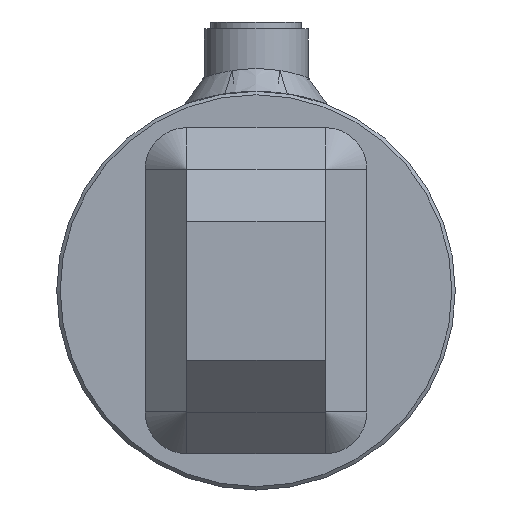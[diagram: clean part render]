
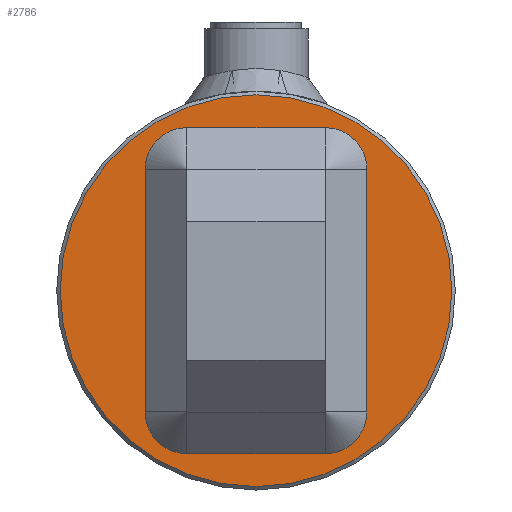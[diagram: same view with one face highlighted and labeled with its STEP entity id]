
A CAD part, left-side view. The second image highlights one B-rep face of the part: STEP entity #2786.
In plain terms, the highlighted planar face has unit normal (-1, 0, 0).
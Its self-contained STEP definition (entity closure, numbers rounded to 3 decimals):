
#2786 = ADVANCED_FACE( '', ( #6310 ), #6311, .T. );
#6310 = FACE_OUTER_BOUND( '', #8167, .T. );
#6311 = PLANE( '', #8168 );
#8167 = EDGE_LOOP( '', ( #8937 ) );
#8168 = AXIS2_PLACEMENT_3D( '', #8938, #8939, #8940 );
#8937 = ORIENTED_EDGE( '', *, *, #10112, .T. );
#8938 = CARTESIAN_POINT( '', ( -15., 0., 0. ) );
#8939 = DIRECTION( '', ( -1., 0., 0. ) );
#8940 = DIRECTION( '', ( 0., -1., 0. ) );
#10112 = EDGE_CURVE( '', #12316, #12316, #12317, .T. );
#12316 = VERTEX_POINT( '', #13126 );
#12317 = CIRCLE( '', #13127, 56.5 );
#13126 = CARTESIAN_POINT( '', ( -15., -56.5, 0. ) );
#13127 = AXIS2_PLACEMENT_3D( '', #13274, #13275, #13276 );
#13274 = CARTESIAN_POINT( '', ( -15., 0., 0. ) );
#13275 = DIRECTION( '', ( -1., 0., 0. ) );
#13276 = DIRECTION( '', ( 0., -1., 0. ) );
